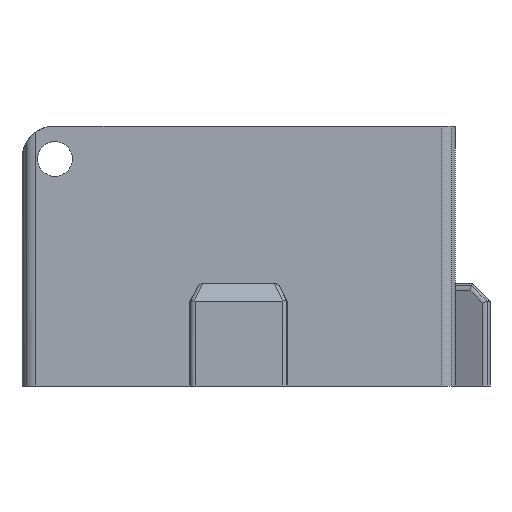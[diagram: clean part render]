
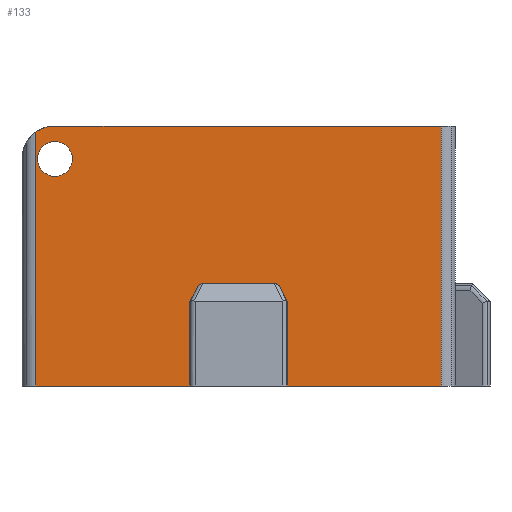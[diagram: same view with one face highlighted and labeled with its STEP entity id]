
A CAD part, front view. The second image highlights one B-rep face of the part: STEP entity #133.
In plain terms, the highlighted planar face has unit normal (0, -1, 0).
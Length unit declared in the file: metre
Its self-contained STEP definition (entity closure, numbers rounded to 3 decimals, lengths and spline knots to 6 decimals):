
#133=ADVANCED_FACE('8:9514',(#409,#410),#411,.T.);
#409=FACE_OUTER_BOUND('',#834,.T.);
#410=FACE_BOUND('',#835,.T.);
#411=PLANE('',#836);
#834=EDGE_LOOP('',(#1683,#1684,#1685,#1686,#1687,#1688,#1689,#1690,#1691,#1692,#1693,#1694,#1695));
#835=EDGE_LOOP('',(#1696,#1697));
#836=AXIS2_PLACEMENT_3D('',#1698,#1699,#1700);
#1683=ORIENTED_EDGE('',*,*,#3160,.F.);
#1684=ORIENTED_EDGE('',*,*,#3161,.T.);
#1685=ORIENTED_EDGE('',*,*,#3162,.T.);
#1686=ORIENTED_EDGE('',*,*,#2943,.F.);
#1687=ORIENTED_EDGE('',*,*,#3163,.T.);
#1688=ORIENTED_EDGE('',*,*,#3164,.T.);
#1689=ORIENTED_EDGE('',*,*,#2905,.F.);
#1690=ORIENTED_EDGE('',*,*,#3165,.T.);
#1691=ORIENTED_EDGE('',*,*,#3166,.T.);
#1692=ORIENTED_EDGE('',*,*,#3037,.F.);
#1693=ORIENTED_EDGE('',*,*,#3152,.F.);
#1694=ORIENTED_EDGE('',*,*,#3154,.T.);
#1695=ORIENTED_EDGE('',*,*,#3028,.F.);
#1696=ORIENTED_EDGE('',*,*,#2948,.F.);
#1697=ORIENTED_EDGE('',*,*,#3167,.F.);
#1698=CARTESIAN_POINT('',(0.0,-0.01,0.0));
#1699=DIRECTION('',(0.0,-1.0,0.0));
#1700=DIRECTION('',(1.0,0.0,0.0));
#2905=EDGE_CURVE('17:4126',#3547,#3549,#3550,.T.);
#2943=EDGE_CURVE('17:4070',#3623,#3625,#3626,.T.);
#2948=EDGE_CURVE('9:28556',#3633,#3629,#3635,.F.);
#3028=EDGE_CURVE('18:3147',#3787,#3789,#3790,.F.);
#3037=EDGE_CURVE('17:2749',#3803,#3805,#3806,.F.);
#3152=EDGE_CURVE('17:2749',#3997,#3803,#3999,.F.);
#3154=EDGE_CURVE('1:255',#3997,#3789,#4001,.F.);
#3160=EDGE_CURVE('18:3147',#4009,#3787,#4010,.F.);
#3161=EDGE_CURVE('2:4369',#4009,#4011,#4012,.T.);
#3162=EDGE_CURVE('1:3668',#4011,#3625,#4013,.T.);
#3163=EDGE_CURVE('13:755',#3623,#4014,#4015,.F.);
#3164=EDGE_CURVE('15:15389',#4014,#3549,#4016,.T.);
#3165=EDGE_CURVE('2:14853',#3547,#4017,#4018,.T.);
#3166=EDGE_CURVE('2:4464',#4017,#3805,#4019,.T.);
#3167=EDGE_CURVE('9:28556',#3629,#3633,#4020,.F.);
#3547=VERTEX_POINT('',#4518);
#3549=VERTEX_POINT('',#4520);
#3550=LINE('',#4521,#4522);
#3623=VERTEX_POINT('',#4678);
#3625=VERTEX_POINT('',#4680);
#3626=LINE('',#4681,#4682);
#3629=VERTEX_POINT('',#4685);
#3633=VERTEX_POINT('',#4690);
#3635=CIRCLE('',#4693,0.001);
#3787=VERTEX_POINT('',#4931);
#3789=VERTEX_POINT('',#4934);
#3790=ELLIPSE('',#4935,0.000447,0.0004);
#3803=VERTEX_POINT('',#4972);
#3805=VERTEX_POINT('',#4975);
#3806=ELLIPSE('',#4976,0.000447,0.0004);
#3997=VERTEX_POINT('',#5296);
#3999=ELLIPSE('',#5299,0.000447,0.0004);
#4001=LINE('',#5302,#5303);
#4009=VERTEX_POINT('',#5314);
#4010=ELLIPSE('',#5315,0.000447,0.0004);
#4011=VERTEX_POINT('',#5316);
#4012=LINE('',#5317,#5318);
#4013=LINE('',#5319,#5320);
#4014=VERTEX_POINT('',#5321);
#4015=LINE('',#5322,#5323);
#4016=CIRCLE('',#5324,0.0019);
#4017=VERTEX_POINT('',#5325);
#4018=LINE('',#5326,#5327);
#4019=LINE('',#5328,#5329);
#4020=CIRCLE('',#5330,0.001);
#4518=CARTESIAN_POINT('',(-0.0117,-0.01,0.0));
#4520=CARTESIAN_POINT('',(-0.0117,-0.01,0.014649));
#4521=CARTESIAN_POINT('',(-0.0117,-0.01,0.0));
#4522=VECTOR('',#6111,1.0);
#4678=CARTESIAN_POINT('',(0.0117,-0.01,0.015));
#4680=CARTESIAN_POINT('',(0.0117,-0.01,0.0));
#4681=CARTESIAN_POINT('',(0.0117,-0.01,0.0));
#4682=VECTOR('',#6183,1.0);
#4685=CARTESIAN_POINT('',(-0.0116,-0.01,0.0131));
#4690=CARTESIAN_POINT('',(-0.0096,-0.01,0.0131));
#4693=AXIS2_PLACEMENT_3D('',#6192,#6193,#6194);
#4931=CARTESIAN_POINT('',(0.001869,-0.01,0.005783));
#4934=CARTESIAN_POINT('',(0.001553,-0.01,0.0059));
#4935=AXIS2_PLACEMENT_3D('',#6327,#6328,#6329);
#4972=CARTESIAN_POINT('',(-0.001869,-0.01,0.005783));
#4975=CARTESIAN_POINT('',(-0.002,-0.01,0.0055));
#4976=AXIS2_PLACEMENT_3D('',#6337,#6338,#6339);
#5296=CARTESIAN_POINT('',(-0.001553,-0.01,0.0059));
#5299=AXIS2_PLACEMENT_3D('',#6545,#6546,#6547);
#5302=CARTESIAN_POINT('',(0.0,-0.01,0.0059));
#5303=VECTOR('',#6549,1.0);
#5314=CARTESIAN_POINT('',(0.002,-0.01,0.0055));
#5315=AXIS2_PLACEMENT_3D('',#6559,#6560,#6561);
#5316=CARTESIAN_POINT('',(0.002,-0.01,0.0));
#5317=CARTESIAN_POINT('',(0.002,-0.01,0.0));
#5318=VECTOR('',#6562,1.0);
#5319=CARTESIAN_POINT('',(-0.0125,-0.01,0.0));
#5320=VECTOR('',#6563,1.0);
#5321=CARTESIAN_POINT('',(-0.0106,-0.01,0.015));
#5322=CARTESIAN_POINT('',(0.0,-0.01,0.015));
#5323=VECTOR('',#6564,1.0);
#5324=AXIS2_PLACEMENT_3D('',#6565,#6566,#6567);
#5325=CARTESIAN_POINT('',(-0.002,-0.01,0.0));
#5326=CARTESIAN_POINT('',(-0.0125,-0.01,0.0));
#5327=VECTOR('',#6568,1.0);
#5328=CARTESIAN_POINT('',(-0.002,-0.01,0.0));
#5329=VECTOR('',#6569,1.0);
#5330=AXIS2_PLACEMENT_3D('',#6570,#6571,#6572);
#6111=DIRECTION('',(0.0,0.0,1.0));
#6183=DIRECTION('',(0.0,0.0,-1.0));
#6192=CARTESIAN_POINT('',(-0.0106,-0.01,0.0131));
#6193=DIRECTION('',(0.0,1.0,-0.0));
#6194=DIRECTION('',(-1.0,0.0,0.0));
#6327=CARTESIAN_POINT('',(0.001553,-0.01,0.0055));
#6328=DIRECTION('',(-0.0,1.0,0.0));
#6329=DIRECTION('',(1.0,0.0,0.));
#6337=CARTESIAN_POINT('',(-0.001553,-0.01,0.0055));
#6338=DIRECTION('',(0.0,1.0,-0.0));
#6339=DIRECTION('',(-1.0,0.0,0.));
#6545=CARTESIAN_POINT('',(-0.001553,-0.01,0.0055));
#6546=DIRECTION('',(0.0,1.0,-0.0));
#6547=DIRECTION('',(-1.0,0.0,0.));
#6549=DIRECTION('',(-1.0,-0.0,-0.0));
#6559=CARTESIAN_POINT('',(0.001553,-0.01,0.0055));
#6560=DIRECTION('',(-0.0,1.0,0.0));
#6561=DIRECTION('',(1.0,0.0,0.));
#6562=DIRECTION('',(0.0,0.0,-1.0));
#6563=DIRECTION('',(1.0,0.0,0.0));
#6564=DIRECTION('',(1.0,0.0,-0.0));
#6565=CARTESIAN_POINT('',(-0.0106,-0.01,0.0131));
#6566=DIRECTION('',(0.0,-1.0,0.0));
#6567=DIRECTION('',(-1.0,0.0,0.0));
#6568=DIRECTION('',(1.0,0.0,0.0));
#6569=DIRECTION('',(0.0,0.0,1.0));
#6570=CARTESIAN_POINT('',(-0.0106,-0.01,0.0131));
#6571=DIRECTION('',(0.0,1.0,-0.0));
#6572=DIRECTION('',(-1.0,0.0,0.0));
